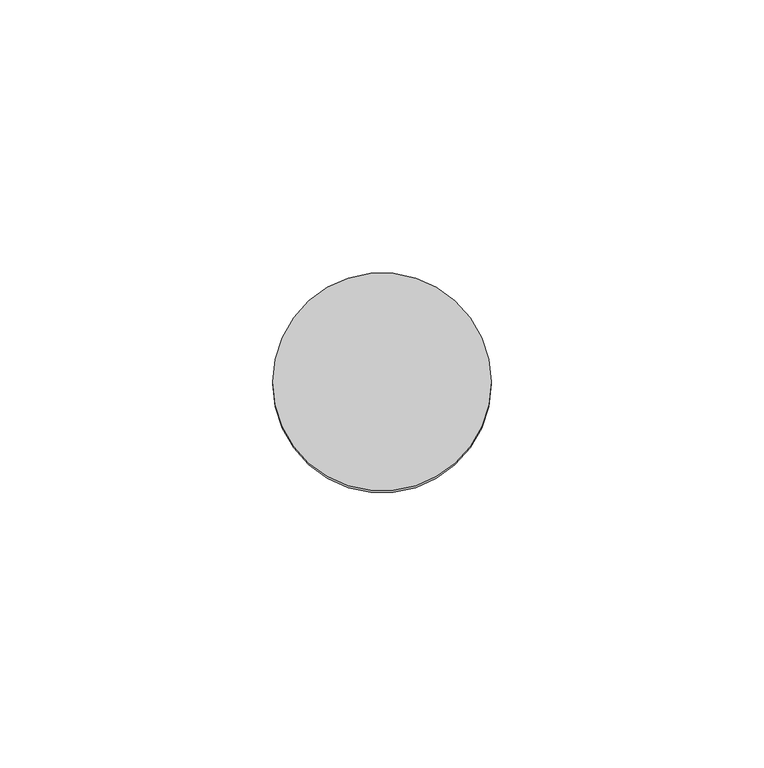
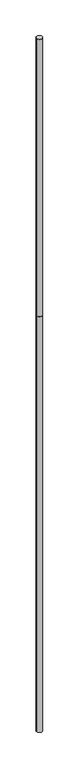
"""IFC4 building model written with IfcOpenShell, lengths in millimetres: proxy geometry, КНС_МачтаМолниеприемная_DKC : NL5000CU_Медь_5м."""

from ifc_helpers import new_model, si_unit, point, frame, origin, origin_with_axes, origin_2d, place, context, project, spatial, circle_curve, trimmed, segment, composite_curve, outline, extrude, source, transform, mapped, element, save


def security_devices_aea7dcd0(model_context):
    return source(origin(), model_context, "Body", "SweptSolid", [
        extrude(outline(composite_curve([segment(trimmed(circle_curve(origin_2d(), 20.0), [point((-20.0, 0.0))], [point((20.0, 0.0))], False, "CARTESIAN"), True, "CONTINUOUS"), segment(trimmed(circle_curve(origin_2d(), 20.0), [point((20.0, 0.0))], [point((-20.0, 0.0))], False, "CARTESIAN"), True, "CONTINUOUS")], self_intersect=False)), frame((0.0, 0.0, 3000.0), z_axis=(0.0, 0.0, 1.0), x_axis=(1.0, 0.0, 0.0)), (0.0, 0.0, 1.0), 2000.0),
        extrude(outline(composite_curve([segment(trimmed(circle_curve(origin_2d(), 20.0), [point((-20.0, 0.0))], [point((20.0, 0.0))], False, "CARTESIAN"), True, "CONTINUOUS"), segment(trimmed(circle_curve(origin_2d(), 20.0), [point((20.0, 0.0))], [point((-20.0, 0.0))], False, "CARTESIAN"), True, "CONTINUOUS")], self_intersect=False)), origin_with_axes(), (0.0, 0.0, 1.0), 3000.0),
    ])


if __name__ == "__main__":
    model = new_model("IFC4")
    model_context = context("Model", 3, world=origin())
    ifc_project = project(units=[si_unit("LENGTHUNIT", "METRE", prefix="MILLI")], contexts=[model_context])
    site = spatial("IfcSite", under=ifc_project)
    building = spatial("IfcBuilding", under=site)
    placement = place(None, origin())
    security_devices_shape = security_devices_aea7dcd0(model_context)
    element("IfcBuildingElementProxy", 1, Name="КНС_МачтаМолниеприемная_DKC : NL5000CU_Медь_5м", ObjectType="КНС_МачтаМолниеприемная_DKC : NL5000CU_Медь_5м", at=placement, inside=building, context=model_context, shape_type="MappedRepresentation", body=[
        mapped(security_devices_shape, transform((0.0, 0.0, 0.0), x_axis=(1.0, 0.0, 0.0), y_axis=(0.0, 1.0, 0.0), z_axis=(0.0, 0.0, 1.0))),
    ])
    save(model, "model.ifc")
